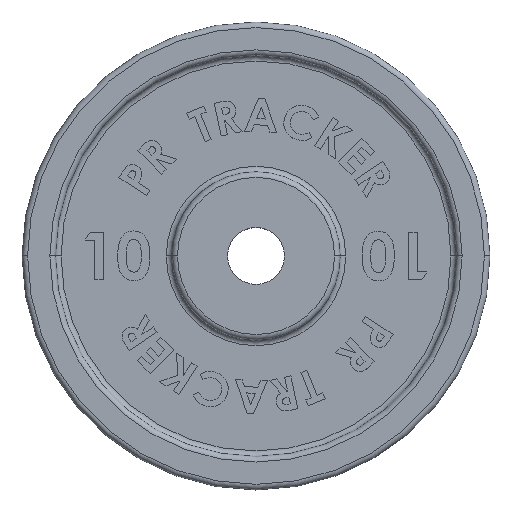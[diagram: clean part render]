
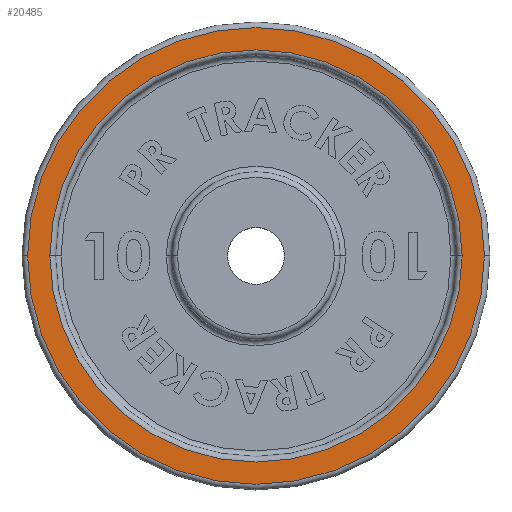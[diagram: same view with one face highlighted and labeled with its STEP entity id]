
A CAD part, top view. The second image highlights one B-rep face of the part: STEP entity #20485.
In plain terms, the highlighted planar face has unit normal (0, 0, 1).
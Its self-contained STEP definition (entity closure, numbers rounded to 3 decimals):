
#1123 = CIRCLE ( 'NONE', #18867, 18.5 ) ;
#1646 = DIRECTION ( 'NONE',  ( 0., 0., -1. ) ) ;
#2313 = DIRECTION ( 'NONE',  ( 1., 0., 0. ) ) ;
#3965 = EDGE_CURVE ( 'NONE', #19448, #11587, #7756, .T. ) ;
#4301 = PLANE ( 'NONE',  #20790 ) ;
#4806 = CARTESIAN_POINT ( 'NONE',  ( 0., 0., 5. ) ) ;
#4974 = EDGE_CURVE ( 'NONE', #11587, #19448, #6883, .T. ) ;
#4992 = ORIENTED_EDGE ( 'NONE', *, *, #4974, .T. ) ;
#6409 = VERTEX_POINT ( 'NONE', #12855 ) ;
#6883 = CIRCLE ( 'NONE', #13487, 20.5 ) ;
#6963 = EDGE_LOOP ( 'NONE', ( #4992, #9009 ) ) ;
#7501 = VERTEX_POINT ( 'NONE', #19585 ) ;
#7536 = ORIENTED_EDGE ( 'NONE', *, *, #26942, .T. ) ;
#7756 = CIRCLE ( 'NONE', #12603, 20.5 ) ;
#8173 = AXIS2_PLACEMENT_3D ( 'NONE', #16163, #22698, #13948 ) ;
#8550 = DIRECTION ( 'NONE',  ( 0., 0., 1. ) ) ;
#9009 = ORIENTED_EDGE ( 'NONE', *, *, #3965, .T. ) ;
#10101 = DIRECTION ( 'NONE',  ( 1., 0., 0. ) ) ;
#10329 = ORIENTED_EDGE ( 'NONE', *, *, #25901, .T. ) ;
#10381 = CIRCLE ( 'NONE', #8173, 18.5 ) ;
#10970 = DIRECTION ( 'NONE',  ( 1., 0., 0. ) ) ;
#11587 = VERTEX_POINT ( 'NONE', #24317 ) ;
#12603 = AXIS2_PLACEMENT_3D ( 'NONE', #4806, #8550, #2313 ) ;
#12855 = CARTESIAN_POINT ( 'NONE',  ( 18.5, 0., 5. ) ) ;
#13410 = EDGE_LOOP ( 'NONE', ( #10329, #7536 ) ) ;
#13487 = AXIS2_PLACEMENT_3D ( 'NONE', #21312, #17292, #25784 ) ;
#13948 = DIRECTION ( 'NONE',  ( 1., 0., 0. ) ) ;
#14187 = CARTESIAN_POINT ( 'NONE',  ( -20.5, 0., 5. ) ) ;
#15281 = CARTESIAN_POINT ( 'NONE',  ( 0., 0., 5. ) ) ;
#16163 = CARTESIAN_POINT ( 'NONE',  ( 0., 0., 5. ) ) ;
#17241 = FACE_BOUND ( 'NONE', #13410, .T. ) ;
#17292 = DIRECTION ( 'NONE',  ( 0., 0., 1. ) ) ;
#18867 = AXIS2_PLACEMENT_3D ( 'NONE', #20816, #1646, #10101 ) ;
#19448 = VERTEX_POINT ( 'NONE', #14187 ) ;
#19585 = CARTESIAN_POINT ( 'NONE',  ( -18.5, 0., 5. ) ) ;
#20485 = ADVANCED_FACE ( 'NONE', ( #23362, #17241 ), #4301, .T. ) ;
#20790 = AXIS2_PLACEMENT_3D ( 'NONE', #15281, #23504, #10970 ) ;
#20816 = CARTESIAN_POINT ( 'NONE',  ( 0., 0., 5. ) ) ;
#21312 = CARTESIAN_POINT ( 'NONE',  ( 0., 0., 5. ) ) ;
#22698 = DIRECTION ( 'NONE',  ( 0., 0., -1. ) ) ;
#23362 = FACE_OUTER_BOUND ( 'NONE', #6963, .T. ) ;
#23504 = DIRECTION ( 'NONE',  ( 0., 0., 1. ) ) ;
#24317 = CARTESIAN_POINT ( 'NONE',  ( 20.5, 0., 5. ) ) ;
#25784 = DIRECTION ( 'NONE',  ( 1., 0., 0. ) ) ;
#25901 = EDGE_CURVE ( 'NONE', #6409, #7501, #10381, .T. ) ;
#26942 = EDGE_CURVE ( 'NONE', #7501, #6409, #1123, .T. ) ;
